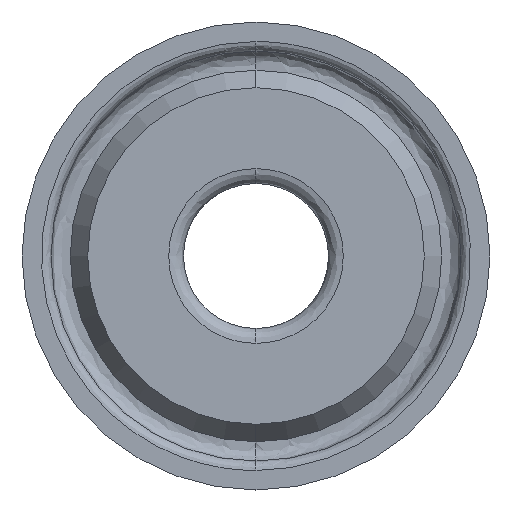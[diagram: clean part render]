
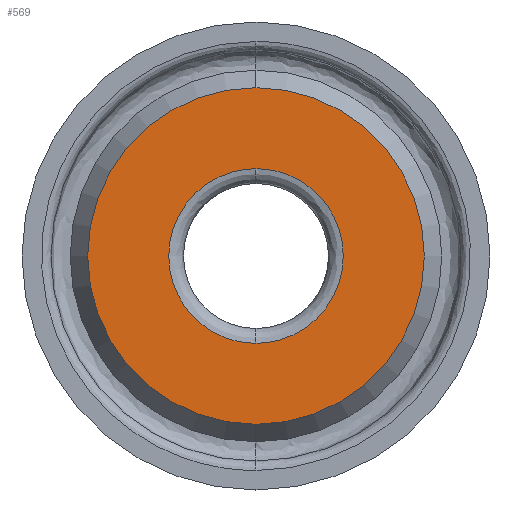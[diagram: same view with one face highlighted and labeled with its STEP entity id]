
A CAD part, left-side view. The second image highlights one B-rep face of the part: STEP entity #569.
In plain terms, the highlighted planar face has unit normal (-1, 0, 0).
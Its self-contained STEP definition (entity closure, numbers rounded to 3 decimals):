
#24 = EDGE_LOOP ( 'NONE', ( #681, #150 ) ) ;
#56 = CARTESIAN_POINT ( 'NONE',  ( 0.787, 0., -4.661 ) ) ;
#65 = PLANE ( 'NONE',  #462 ) ;
#105 = VERTEX_POINT ( 'NONE', #410 ) ;
#115 = DIRECTION ( 'NONE',  ( 0., 0., -1. ) ) ;
#116 = EDGE_CURVE ( 'NONE', #105, #420, #606, .T. ) ;
#117 = DIRECTION ( 'NONE',  ( 0., 0., -1. ) ) ;
#127 =( BOUNDED_CURVE ( )  B_SPLINE_CURVE ( 3, ( #281, #560, #502, #56 ),
 .UNSPECIFIED., .F., .F. ) 
 B_SPLINE_CURVE_WITH_KNOTS ( ( 4, 4 ),
 ( 0., 1. ),
 .UNSPECIFIED. ) 
 CURVE ( )  GEOMETRIC_REPRESENTATION_ITEM ( )  RATIONAL_B_SPLINE_CURVE ( ( 1., 0.333, 0.333, 1. ) ) 
 REPRESENTATION_ITEM ( '' )  );
#150 = ORIENTED_EDGE ( 'NONE', *, *, #772, .F. ) ;
#184 = EDGE_CURVE ( 'NONE', #563, #721, #540, .T. ) ;
#192 = CARTESIAN_POINT ( 'NONE',  ( 0.787, 0., 4.661 ) ) ;
#221 = CARTESIAN_POINT ( 'NONE',  ( 0.787, 0., 4.661 ) ) ;
#225 = ORIENTED_EDGE ( 'NONE', *, *, #356, .F. ) ;
#228 = CARTESIAN_POINT ( 'NONE',  ( 0.787, -9.322, -4.661 ) ) ;
#278 = AXIS2_PLACEMENT_3D ( 'NONE', #321, #310, #320 ) ;
#281 = CARTESIAN_POINT ( 'NONE',  ( 0.787, 0., 4.661 ) ) ;
#287 = CIRCLE ( 'NONE', #609, 8.987 ) ;
#310 = DIRECTION ( 'NONE',  ( 1., 0., 0. ) ) ;
#320 = DIRECTION ( 'NONE',  ( 0., 0., -1. ) ) ;
#321 = CARTESIAN_POINT ( 'NONE',  ( 0.787, 0., 0. ) ) ;
#356 = EDGE_CURVE ( 'NONE', #420, #105, #287, .T. ) ;
#368 = DIRECTION ( 'NONE',  ( 1., 0., 0. ) ) ;
#375 = CARTESIAN_POINT ( 'NONE',  ( 0.787, 0., 8.987 ) ) ;
#410 = CARTESIAN_POINT ( 'NONE',  ( 0.787, 0., -8.987 ) ) ;
#420 = VERTEX_POINT ( 'NONE', #375 ) ;
#437 = CARTESIAN_POINT ( 'NONE',  ( 0.787, 0., -4.661 ) ) ;
#459 = ORIENTED_EDGE ( 'NONE', *, *, #116, .F. ) ;
#462 = AXIS2_PLACEMENT_3D ( 'NONE', #509, #368, #117 ) ;
#502 = CARTESIAN_POINT ( 'NONE',  ( 0.787, 9.322, -4.661 ) ) ;
#509 = CARTESIAN_POINT ( 'NONE',  ( 0.787, 4.661, 0. ) ) ;
#540 =( BOUNDED_CURVE ( )  B_SPLINE_CURVE ( 3, ( #749, #228, #754, #192 ),
 .UNSPECIFIED., .F., .F. ) 
 B_SPLINE_CURVE_WITH_KNOTS ( ( 4, 4 ),
 ( 0., 1. ),
 .UNSPECIFIED. ) 
 CURVE ( )  GEOMETRIC_REPRESENTATION_ITEM ( )  RATIONAL_B_SPLINE_CURVE ( ( 1., 0.333, 0.333, 1. ) ) 
 REPRESENTATION_ITEM ( '' )  );
#560 = CARTESIAN_POINT ( 'NONE',  ( 0.787, 9.322, 4.661 ) ) ;
#563 = VERTEX_POINT ( 'NONE', #437 ) ;
#569 = ADVANCED_FACE ( 'NONE', ( #739, #758 ), #65, .F. ) ;
#585 = EDGE_LOOP ( 'NONE', ( #459, #225 ) ) ;
#606 = CIRCLE ( 'NONE', #278, 8.987 ) ;
#609 = AXIS2_PLACEMENT_3D ( 'NONE', #761, #629, #115 ) ;
#629 = DIRECTION ( 'NONE',  ( 1., 0., 0. ) ) ;
#681 = ORIENTED_EDGE ( 'NONE', *, *, #184, .F. ) ;
#721 = VERTEX_POINT ( 'NONE', #221 ) ;
#739 = FACE_OUTER_BOUND ( 'NONE', #585, .T. ) ;
#749 = CARTESIAN_POINT ( 'NONE',  ( 0.787, 0., -4.661 ) ) ;
#754 = CARTESIAN_POINT ( 'NONE',  ( 0.787, -9.322, 4.661 ) ) ;
#758 = FACE_BOUND ( 'NONE', #24, .T. ) ;
#761 = CARTESIAN_POINT ( 'NONE',  ( 0.787, 0., 0. ) ) ;
#772 = EDGE_CURVE ( 'NONE', #721, #563, #127, .T. ) ;
